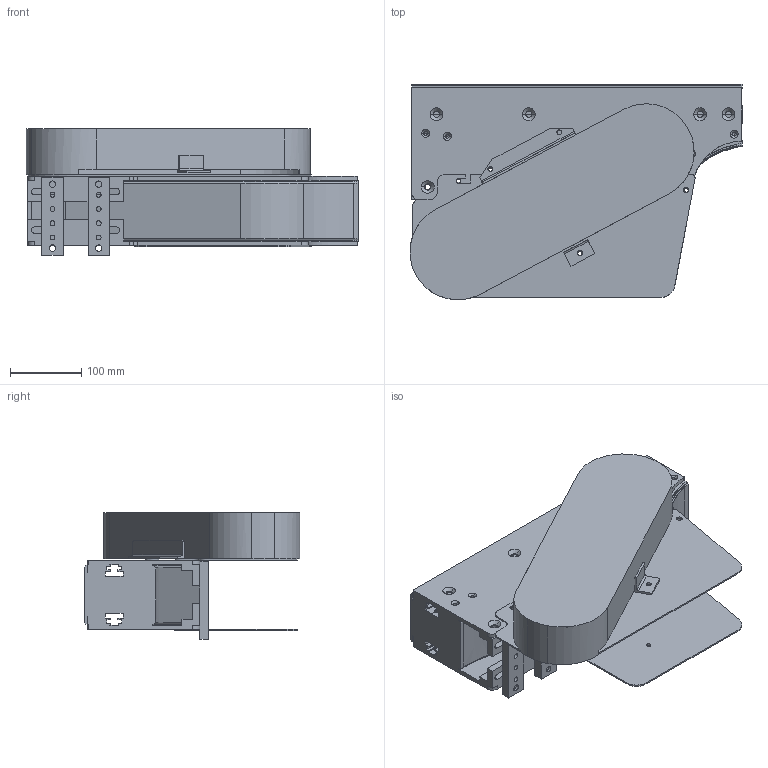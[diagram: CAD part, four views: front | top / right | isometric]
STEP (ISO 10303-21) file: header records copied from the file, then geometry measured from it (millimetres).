
FILE_DESCRIPTION (( 'STEP AP214' ), '1' );
FILE_NAME ('FMID SD 0R.step', '2017-04-07T11:08:37', ( '' ), ( '' ), 'SwSTEP 2.0', 'SolidWorks 2016', '' );
FILE_SCHEMA (( 'AUTOMOTIVE_DESIGN' ));
Length unit declared in the file: millimetre
Products named in the file (1): FMID SD 0R
Bounding box: 467.29 x 303.46 x 178 mm (x, y, z)
Volume: 6141825.9 mm3; surface area: 835501.4 mm2
Topology: 1 solids, 1 shells, 651 faces, 1758 edges, 1081 vertices
Faces by surface type: cylinder 278, plane 231, cone 112, bspline 30
Entity records: 25100 total; most frequent: CARTESIAN_POINT 3984, DIRECTION 3675, ORIENTED_EDGE 3428, EDGE_CURVE 1714, AXIS2_PLACEMENT_3D 1353, VERTEX_POINT 1081, VECTOR 969, LINE 969
